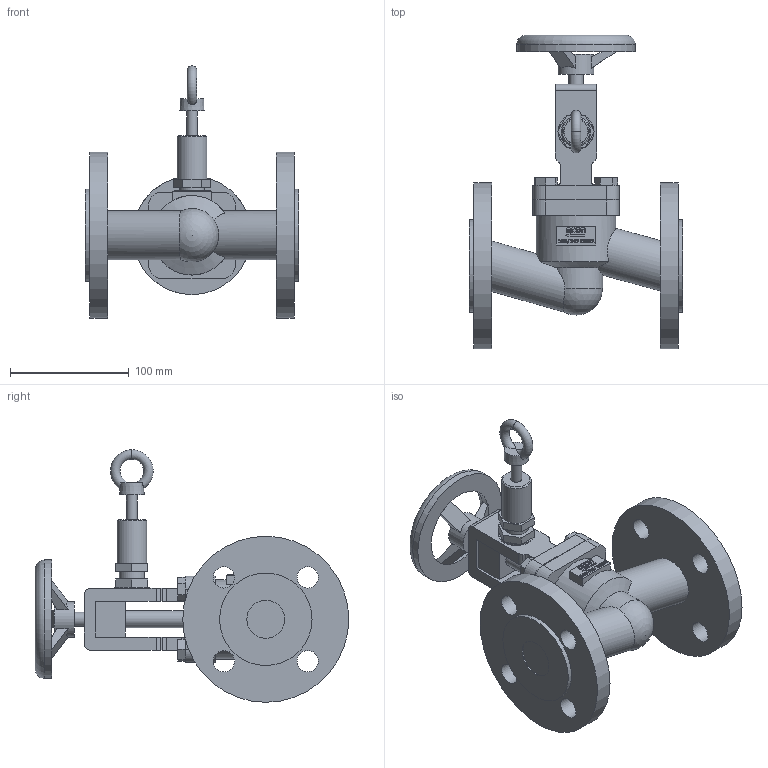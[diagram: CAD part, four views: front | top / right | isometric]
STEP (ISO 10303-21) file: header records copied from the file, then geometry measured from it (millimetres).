
FILE_DESCRIPTION(/* description */ (''),/* implementation_level */ '2;1');
FILE_NAME(/* name */ '100-247M-DN32-PN16.stp',/* time_stamp */ '2024-07-09T08:00:38+02:00',/* author */ ('roger.thijssen'),/* organization */ (''),/* preprocessor_version */ 'ST-DEVELOPER v20',/* originating_system */ 'Autodesk Inventor 2024',/* authorisation */ '');
FILE_SCHEMA (('AUTOMOTIVE_DESIGN { 1 0 10303 214 3 1 1 }'));
Length unit declared in the file: millimetre
Products named in the file (1): 100-247M-DN32-PN16
Bounding box: 180 x 264.5 x 213 mm (x, y, z)
Volume: 1145418 mm3; surface area: 170668.6 mm2
Topology: 1 solids, 1 shells, 403 faces, 1079 edges, 714 vertices
Faces by surface type: plane 255, bspline 72, cylinder 68, cone 4, torus 3, sphere 1
Full cylindrical faces by diameter (mm): 9 x1, 12 x1, 14 x1, 18 x8, 21 x1, 25 x1, 30 x2, 32 x2, 41 x2, 56 x1, 67 x1, 78 x2, 100 x1, 140 x2
Entity records: 13892 total; most frequent: CARTESIAN_POINT 3617, ORIENTED_EDGE 2156, DIRECTION 1754, EDGE_CURVE 1078, LINE 730, VECTOR 730, VERTEX_POINT 714, AXIS2_PLACEMENT_3D 512
